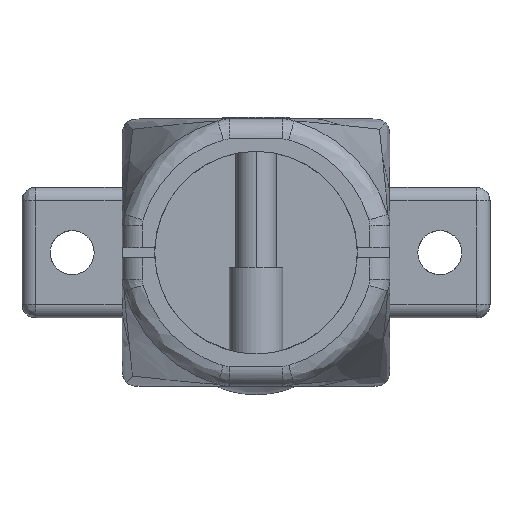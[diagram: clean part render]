
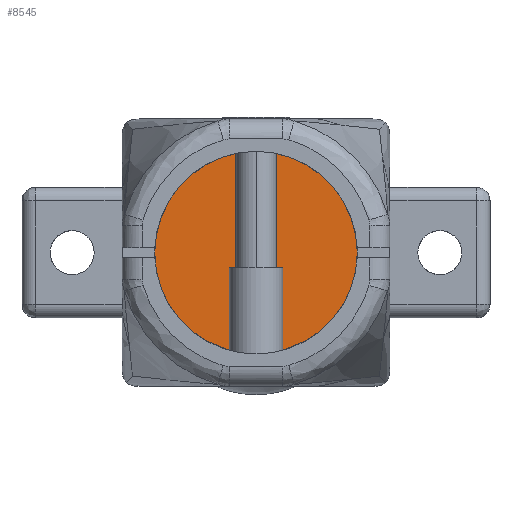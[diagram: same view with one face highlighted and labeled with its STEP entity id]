
A CAD part, front view. The second image highlights one B-rep face of the part: STEP entity #8545.
In plain terms, the highlighted planar face has unit normal (0, -1, 0).
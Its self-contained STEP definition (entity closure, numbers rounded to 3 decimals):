
#291 = DIRECTION ( 'NONE',  ( 0., 1., 0. ) ) ;
#342 = AXIS2_PLACEMENT_3D ( 'NONE', #4232, #291, #4316 ) ;
#366 = EDGE_CURVE ( 'NONE', #1744, #4582, #4410, .T. ) ;
#1744 = VERTEX_POINT ( 'NONE', #9024 ) ;
#2232 = DIRECTION ( 'NONE',  ( 0., 0., 1. ) ) ;
#2304 = DIRECTION ( 'NONE',  ( 0., 0., 1. ) ) ;
#2785 = CARTESIAN_POINT ( 'NONE',  ( 0., 13.5, 15.15 ) ) ;
#3290 = EDGE_LOOP ( 'NONE', ( #4599, #7499 ) ) ;
#3976 = EDGE_CURVE ( 'NONE', #4582, #1744, #11974, .T. ) ;
#4232 = CARTESIAN_POINT ( 'NONE',  ( 0., 13.5, 0. ) ) ;
#4316 = DIRECTION ( 'NONE',  ( 0., 0., 1. ) ) ;
#4410 = CIRCLE ( 'NONE', #6477, 15.15 ) ;
#4582 = VERTEX_POINT ( 'NONE', #2785 ) ;
#4599 = ORIENTED_EDGE ( 'NONE', *, *, #3976, .T. ) ;
#5164 = PLANE ( 'NONE',  #342 ) ;
#5323 = CARTESIAN_POINT ( 'NONE',  ( 0., 13.5, 0. ) ) ;
#6477 = AXIS2_PLACEMENT_3D ( 'NONE', #7146, #8154, #2232 ) ;
#7146 = CARTESIAN_POINT ( 'NONE',  ( 0., 13.5, 0. ) ) ;
#7499 = ORIENTED_EDGE ( 'NONE', *, *, #366, .T. ) ;
#8154 = DIRECTION ( 'NONE',  ( 0., -1., 0. ) ) ;
#8545 = ADVANCED_FACE ( 'NONE', ( #11821 ), #5164, .F. ) ;
#9024 = CARTESIAN_POINT ( 'NONE',  ( 0., 13.5, -15.15 ) ) ;
#11821 = FACE_OUTER_BOUND ( 'NONE', #3290, .T. ) ;
#11974 = CIRCLE ( 'NONE', #12161, 15.15 ) ;
#12161 = AXIS2_PLACEMENT_3D ( 'NONE', #5323, #12264, #2304 ) ;
#12264 = DIRECTION ( 'NONE',  ( 0., -1., 0. ) ) ;
